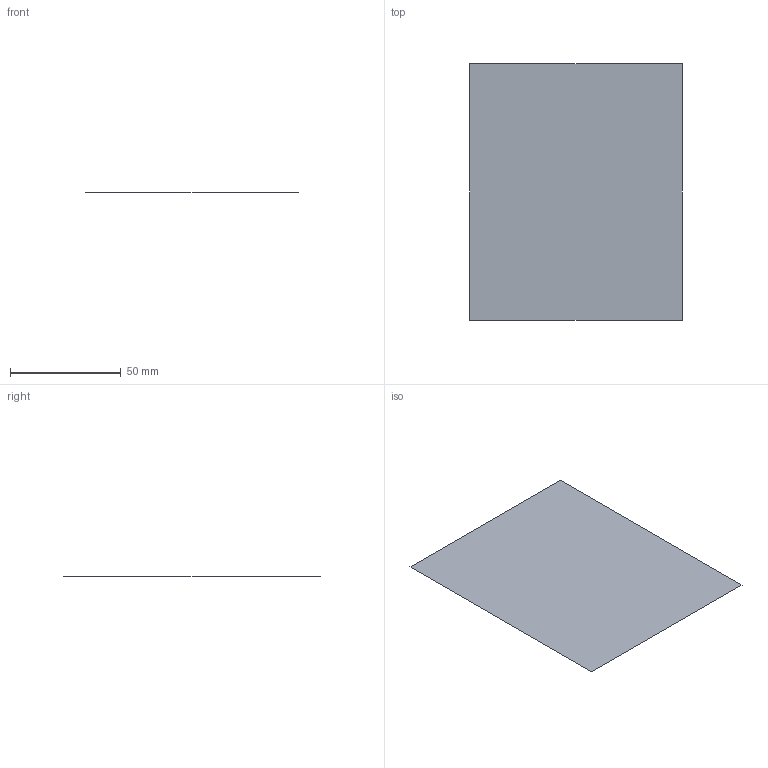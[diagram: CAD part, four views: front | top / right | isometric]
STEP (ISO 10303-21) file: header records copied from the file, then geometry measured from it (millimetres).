
FILE_DESCRIPTION(('CATIA V5 STEP Exchange'),'2;1');
FILE_NAME('C:\_Andres\UNIVERSIDAD\IQS\ASIGNATURAS\DAO\EXF\EXF-15161c\1original\Esteva_Esteve_Ej06-calculo_v6.stp','2016-03-04T20:57:42+00:00',('none'),('none'),'CATIA Version 5 Release 20 SP 1 (IN-10)','CATIA V5 STEP AP203','none');
FILE_SCHEMA(('CONFIG_CONTROL_DESIGN'));
Length unit declared in the file: millimetre
Products named in the file (1): Esteva_Esteve_Ej06-calculo_v6
Bounding box: 96 x 116 x 0 mm (x, y, z)
Surface area: 11136 mm2 (no closed solid volume)
Topology: 0 solids, 1 shells, 1 faces, 8 edges, 9 vertices
Faces by surface type: plane 1
Entity records: 130 total; most frequent: CARTESIAN_POINT 23, DIRECTION 12, VECTOR 8, LINE 8, COMPOSITE_CURVE_SEGMENT 4, ORIENTED_EDGE 4, CC_DESIGN_PERSON_AND_ORGANIZATION_ASSIGNMENT 4, PERSON_AND_ORGANIZATION_ROLE 4
